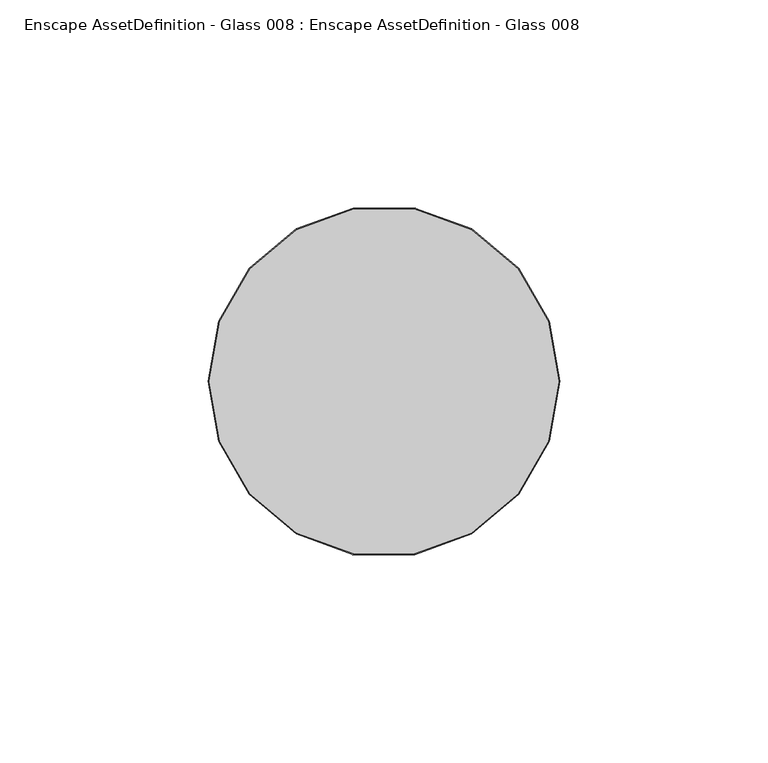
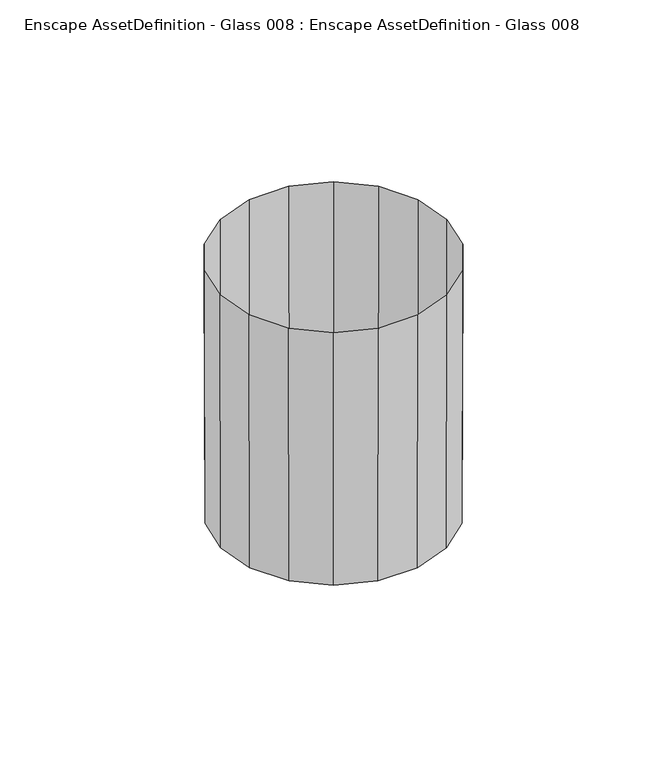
"""IFC4 building model written with IfcOpenShell, lengths in millimetres: geographic element geometry, Enscape AssetDefinition - Glass 008 : Enscape AssetDefinition - Glass 008."""

import ifcopenshell
import ifcopenshell.guid

model = None  # the IFC model being written
_history = None  # IfcOwnerHistory: only IFC2X3 demands one
_inside = {}  # id of a spatial element -> (the spatial element, [elements in it])
_under = {}  # id of a project, library or spatial element -> (it, [spatial elements below it])
_declared = {}  # id of a project -> (the project, [libraries it declares])
_typed = {}  # id of a type object -> (the type object, [elements of that type])
_made_of = {}  # id of a material, layer set ... -> (it, [elements and type objects made of it])


def new_model(schema):
    """Start an empty IFC model of exactly this schema.

    Asked for "IFC4X3", IfcOpenShell would pick the latest addendum, in which some entities
    have other attributes; the version numbers below select the first issue.
    IFC2X3 requires an IfcOwnerHistory on every rooted entity: one is made here for all.
    """
    global model, _history
    if schema == "IFC4X3":
        model = ifcopenshell.file(schema_version=(4, 3, 0, 0))
    else:
        model = ifcopenshell.file(schema=schema)
    _inside.clear()
    _under.clear()
    _declared.clear()
    _typed.clear()
    _made_of.clear()
    _history = None
    if model.schema == "IFC2X3":
        org = make("IfcOrganization", Name="unknown")
        user = make(
            "IfcPersonAndOrganization",
            ThePerson=make("IfcPerson", FamilyName="unknown"),
            TheOrganization=org,
        )
        app = make(
            "IfcApplication",
            ApplicationDeveloper=org,
            Version="unknown",
            ApplicationFullName="unknown",
            ApplicationIdentifier="unknown",
        )
        _history = make(
            "IfcOwnerHistory",
            OwningUser=user,
            OwningApplication=app,
            ChangeAction="ADDED",
            CreationDate=0,
        )
    return model


def make(cls, **values):
    """One entity of the class cls with the attributes given. An attribute that is None is left unset."""
    return model.create_entity(
        cls, **{name: value for name, value in values.items() if value is not None}
    )


def rooted(cls, **values):
    """An entity with a GlobalId (a new one), such as an element, a storey or a relation."""
    return make(cls, GlobalId=ifcopenshell.guid.new(), OwnerHistory=_history, **values)


def si_unit(unit_type, name, prefix=None):
    """IfcSIUnit, for example si_unit("LENGTHUNIT", "METRE", prefix="MILLI")."""
    return make("IfcSIUnit", UnitType=unit_type, Prefix=prefix, Name=name)


def assignment(units):
    """IfcUnitAssignment: the units of a project."""
    return None if units is None else make("IfcUnitAssignment", Units=units)


def point(xyz):
    """IfcCartesianPoint."""
    return None if xyz is None else make("IfcCartesianPoint", Coordinates=xyz)


def direction(xyz):
    """IfcDirection."""
    return None if xyz is None else make("IfcDirection", DirectionRatios=xyz)


def frame(location, z_axis=None, x_axis=None):
    """IfcAxis2Placement3D, a coordinate frame: its origin and axes. An axis left out is left unset."""
    return make(
        "IfcAxis2Placement3D",
        Location=point(location),
        Axis=direction(z_axis),
        RefDirection=direction(x_axis),
    )


def origin():
    """The frame at (0, 0, 0) with its axes left unset."""
    return frame((0.0, 0.0, 0.0))


def place(relative_to, where):
    """IfcLocalPlacement: puts the frame where relative to a parent placement (None: the world)."""
    return make(
        "IfcLocalPlacement", PlacementRelTo=relative_to, RelativePlacement=where
    )


def context(
    kind, dimensions, precision=None, world=None, true_north=None, identifier=None
):
    """IfcGeometricRepresentationContext, for example the 3D "Model" context."""
    return make(
        "IfcGeometricRepresentationContext",
        ContextIdentifier=identifier,
        ContextType=kind,
        CoordinateSpaceDimension=dimensions,
        Precision=precision,
        WorldCoordinateSystem=world,
        TrueNorth=true_north,
    )


def project(units=None, contexts=None):
    """IfcProject with its units and contexts."""
    return rooted(
        "IfcProject",
        Name="project",
        RepresentationContexts=contexts,
        UnitsInContext=assignment(units),
    )


def spatial(cls, under=None, at=None, **own):
    """A site, building, storey or space (cls), placed at a placement, below another one or the project."""
    s = rooted(cls, ObjectPlacement=at, **own)
    if under is not None:
        _under.setdefault(under.id(), (under, []))[1].append(s)
    return s


def point_list(points):
    """IfcCartesianPointList2D or 3D."""
    cls = (
        "IfcCartesianPointList2D" if len(points[0]) == 2 else "IfcCartesianPointList3D"
    )
    return make(cls, CoordList=points)


def triangles(points, corners, closed=None, point_numbers=None):
    """IfcTriangulatedFaceSet: each triangle names its three corners, points numbered from 1."""
    return make(
        "IfcTriangulatedFaceSet",
        Coordinates=point_list(points),
        Closed=closed,
        CoordIndex=corners,
        PnIndex=point_numbers,
    )


def shape(context_of_items, identifier, shape_type, items):
    """IfcShapeRepresentation: the items that make up one representation, for example the "Body"."""
    return make(
        "IfcShapeRepresentation",
        ContextOfItems=context_of_items,
        RepresentationIdentifier=identifier,
        RepresentationType=shape_type,
        Items=items,
    )


def source(mapping_origin, context_of_items, identifier, shape_type, items):
    """IfcRepresentationMap: a shape defined once, which mapped items show again and again."""
    return make(
        "IfcRepresentationMap",
        MappingOrigin=mapping_origin,
        MappedRepresentation=shape(context_of_items, identifier, shape_type, items),
    )


def transform(
    local_origin,
    x_axis=None,
    y_axis=None,
    z_axis=None,
    scale=None,
    scale2=None,
    scale3=None,
    uniform=True,
):
    """IfcCartesianTransformationOperator3D, or its non-uniform kind. x_axis, y_axis, z_axis: its Axis1, 2, 3."""
    if uniform:
        return make(
            "IfcCartesianTransformationOperator3D",
            Axis1=direction(x_axis),
            Axis2=direction(y_axis),
            LocalOrigin=point(local_origin),
            Scale=scale,
            Axis3=direction(z_axis),
        )
    return make(
        "IfcCartesianTransformationOperator3DnonUniform",
        Axis1=direction(x_axis),
        Axis2=direction(y_axis),
        LocalOrigin=point(local_origin),
        Scale=scale,
        Axis3=direction(z_axis),
        Scale2=scale2,
        Scale3=scale3,
    )


def mapped(mapping_source, mapping_target):
    """IfcMappedItem: shows the shape of a source again, moved by a transform."""
    return make(
        "IfcMappedItem", MappingSource=mapping_source, MappingTarget=mapping_target
    )


def made_of(thing, what):
    """Note that an element or type object is made of a material, layer set ...; save() writes the relation."""
    if what is not None:
        _made_of.setdefault(what.id(), (what, []))[1].append(thing)
    return thing


def element(
    cls,
    number,
    at=None,
    inside=None,
    cuts=None,
    type_object=None,
    material=None,
    context=None,
    identifier="Body",
    shape_type=None,
    held_by="IfcProductDefinitionShape",
    body=None,
    shapes=None,
    **own,
):
    """One element of the class cls, such as IfcWall. Its Tag is "e" and its number.

    at: its placement. inside: the storey or other place that contains it. cuts: it is an
    opening in that element (IfcRelVoidsElement). A single representation is given by context,
    identifier, shape_type and body (its items); several are given by shapes. held_by: the class
    of the entity that holds the representations. save() writes the other relations.
    """
    e = rooted(cls, Tag="e%d" % number, ObjectPlacement=at, **own)
    if body is not None:
        shapes = [shape(context, identifier, shape_type, body)]
    if shapes is not None:
        e.Representation = make(held_by, Representations=shapes)
    if inside is not None:
        _inside.setdefault(inside.id(), (inside, []))[1].append(e)
    if cuts is not None:
        rooted(
            "IfcRelVoidsElement", RelatingBuildingElement=cuts, RelatedOpeningElement=e
        )
    if type_object is not None:
        _typed.setdefault(type_object.id(), (type_object, []))[1].append(e)
    return made_of(e, material)


def aggregate(whole, parts):
    """IfcRelAggregates: a whole, such as a stair, and the parts it consists of."""
    return rooted("IfcRelAggregates", RelatingObject=whole, RelatedObjects=parts)


def save(model, path):
    """Write the relations noted so far, then the file.

    IfcRelAggregates (storeys below a building ...), IfcRelContainedInSpatialStructure (elements
    in a storey), IfcRelDefinesByType, IfcRelAssociatesMaterial and IfcRelDeclares: one each for
    every whole, place, type object, material and project.
    """
    for whole, parts in _under.values():
        aggregate(whole, parts)
    for where, things in _inside.values():
        rooted(
            "IfcRelContainedInSpatialStructure",
            RelatedElements=things,
            RelatingStructure=where,
        )
    for kind, things in _typed.values():
        rooted("IfcRelDefinesByType", RelatedObjects=things, RelatingType=kind)
    for what, things in _made_of.values():
        rooted("IfcRelAssociatesMaterial", RelatedObjects=things, RelatingMaterial=what)
    for by, libraries in _declared.values():
        rooted("IfcRelDeclares", RelatingContext=by, RelatedDefinitions=libraries)
    model.write(path)


def enscape_assetdefinition_glass_008_enscape_assetdefinition_770b69f1(model_context):
    return source(origin(), model_context, "Body", "Tessellation", [
        triangles([(32.2347239, 27.048265, 0.1941728), (39.5417498, 14.3922901, 0.1941728), (21.0401538, 36.4421411, 0.1941728), (-7.3070281, 41.4405528, 0.1941728), (-32.2347239, 27.048265, 0.1941728), (-21.0401538, 36.4421411, 0.1941728), (0.0, 0.0, 0.0), (39.5417498, -14.3922901, 0.1941728), (-21.0401538, -36.4421411, 0.1941728), (-7.3407526, -41.6316658, 99.6116524), (7.3407526, -41.6316658, 99.6116524), (-7.3070281, -41.4405528, 0.1941728), (7.3070281, -41.4405528, 0.1941728), (21.1372386, -36.609743, 99.6116524), (21.0401538, -36.4421411, 0.1941728), (32.2347239, -27.048265, 0.1941728), (32.3829094, -27.1729462, 99.6116524), (39.7236609, -14.4587173, 99.6116524), (42.2734553, 0.0, 99.6116524), (42.0792811, 0.0, 0.1941728), (32.3829094, 27.1729462, 99.6116524), (39.7236609, 14.4587173, 99.6116524), (21.1372386, 36.609743, 99.6116524), (7.3407526, 41.6316658, 99.6116524), (7.3070281, 41.4405528, 0.1941728), (-7.3407526, 41.6316658, 99.6116524), (-21.1372386, 36.609743, 99.6116524), (-32.3829094, 27.1729462, 99.6116524), (-39.5417498, 14.3922901, 0.1941728), (-39.7236609, 14.4587173, 99.6116524), (-42.2734553, 0.0, 99.6116524), (-42.0792811, 0.0, 0.1941728), (-39.7236609, -14.4587173, 99.6116524), (-39.5417498, -14.3922901, 0.1941728), (-32.2347239, -27.048265, 0.1941728), (-32.3829094, -27.1729462, 99.6116524), (-21.1372386, -36.609743, 99.6116524)], [[10, 37, 9], [35, 9, 37], [37, 36, 35], [34, 35, 36], [36, 33, 34], [32, 34, 33], [33, 31, 32], [29, 32, 31], [31, 30, 29], [5, 29, 30], [30, 28, 5], [6, 5, 28], [28, 27, 6], [4, 6, 27], [27, 26, 4], [25, 4, 26], [26, 24, 25], [3, 25, 24], [24, 23, 3], [1, 3, 23], [23, 21, 1], [2, 1, 21], [21, 22, 2], [20, 19, 18], [20, 2, 22], [22, 19, 20], [18, 8, 20], [16, 8, 18], [18, 17, 16], [15, 16, 17], [17, 14, 15], [13, 15, 14], [14, 11, 13], [12, 13, 11], [11, 10, 12], [9, 12, 10], [7, 20, 8], [7, 8, 16], [7, 16, 15], [7, 15, 13], [7, 13, 12], [7, 12, 9], [7, 9, 35], [7, 35, 34], [7, 34, 32], [7, 32, 29], [7, 29, 5], [7, 5, 6], [7, 6, 4], [7, 4, 25], [7, 25, 3], [7, 3, 1], [7, 1, 2], [7, 2, 20]], closed=False),
    ])


if __name__ == "__main__":
    model = new_model("IFC4")
    model_context = context("Model", 3, world=origin())
    ifc_project = project(units=[si_unit("LENGTHUNIT", "METRE", prefix="MILLI")], contexts=[model_context])
    site = spatial("IfcSite", under=ifc_project)
    building = spatial("IfcBuilding", under=site)
    placement = place(None, origin())
    enscape_assetdefinition_glass_008_enscape_assetdefinition_shape = enscape_assetdefinition_glass_008_enscape_assetdefinition_770b69f1(model_context)
    element("IfcGeographicElement", 1, ObjectType="Enscape AssetDefinition - Glass 008 : Enscape AssetDefinition - Glass 008", at=placement, inside=building, context=model_context, shape_type="MappedRepresentation", body=[
        mapped(enscape_assetdefinition_glass_008_enscape_assetdefinition_shape, transform((0.0, 0.0, 0.0), x_axis=(1.0, 0.0, 0.0), y_axis=(0.0, 1.0, 0.0), z_axis=(0.0, 0.0, 1.0))),
    ])
    save(model, "model.ifc")
